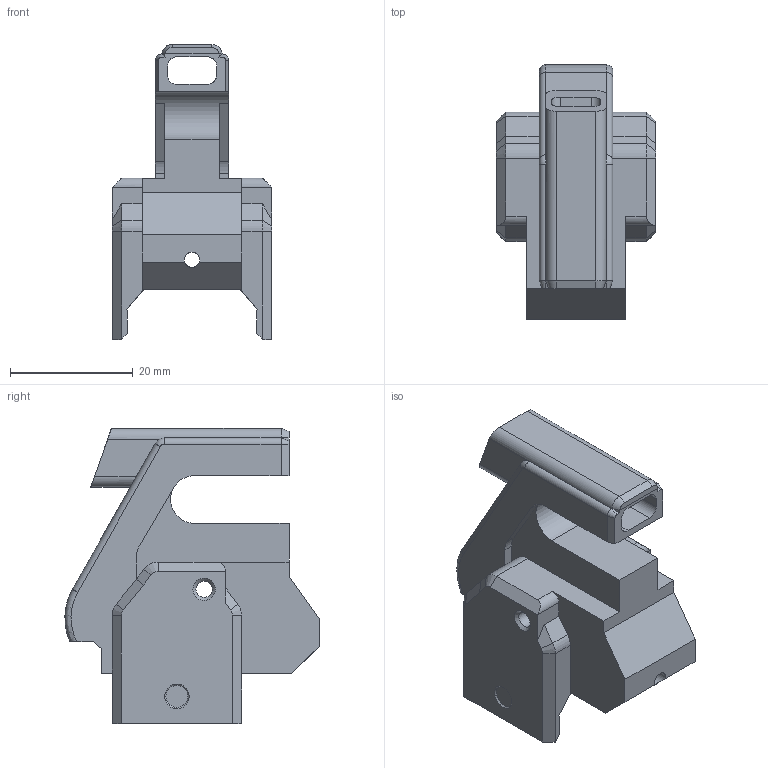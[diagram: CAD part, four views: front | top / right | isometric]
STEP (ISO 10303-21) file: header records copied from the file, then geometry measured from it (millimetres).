
FILE_DESCRIPTION(('HOOPS Exchange Step'),'2;1');
FILE_NAME('/private/var/mobile/Containers/Data/Application/6645FEE8-917D-41E1-B4AE-5ED5900E217E/tmp/export/temp_export','2026-06-16T20:44:58+19:00',('mobile'),('Shapr3D Limited'),'HOOPS Exchange 2026.3','Shapr3D','Authorized');
FILE_SCHEMA( ('AP242_MANAGED_MODEL_BASED_3D_ENGINEERING_MIM_LF {1 0 10303 442 1 1 4}') );
Length unit declared in the file: millimetre
Products named in the file (2): Conduit; root
Assembly tree (1 placements, depth 2):
  root
    Conduit
Bounding box: 26 x 41.49 x 48.16 mm (x, y, z)
Volume: 18182.8 mm3; surface area: 7533.2 mm2
Topology: 1 solids, 1 shells, 135 faces, 361 edges, 229 vertices
Faces by surface type: plane 86, cylinder 29, cone 14, torus 4, bspline 2
Full cylindrical faces by diameter (mm): 2.5 x1, 2.65 x1, 4.472 x1
Entity records: 4401 total; most frequent: CARTESIAN_POINT 931, ORIENTED_EDGE 722, DIRECTION 707, EDGE_CURVE 361, VECTOR 259, LINE 259, VERTEX_POINT 229, AXIS2_PLACEMENT_3D 224
